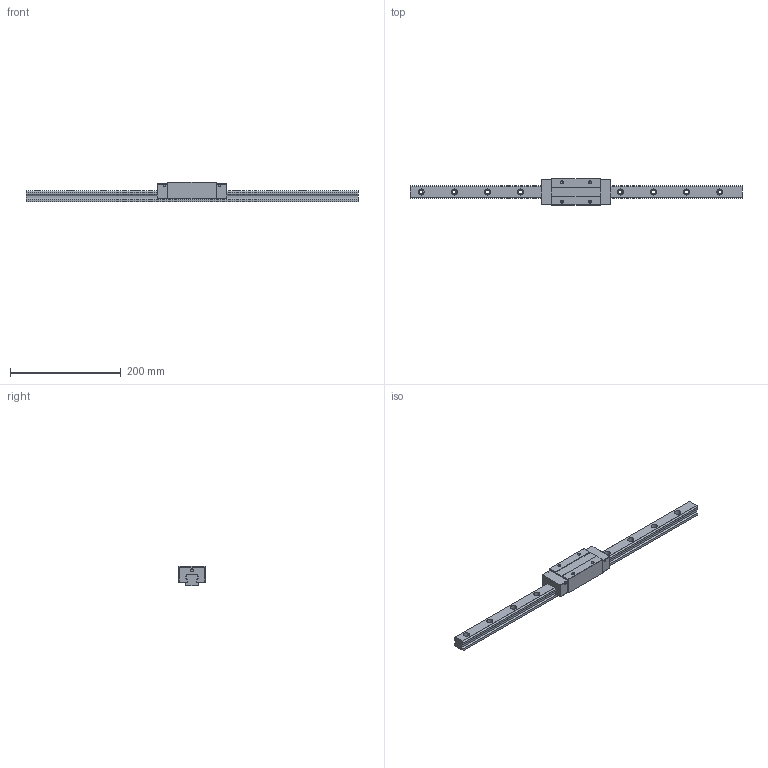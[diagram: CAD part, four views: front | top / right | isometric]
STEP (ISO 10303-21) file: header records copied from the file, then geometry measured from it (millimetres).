
FILE_DESCRIPTION (( 'STEP AP203' ), '1' );
FILE_NAME ('TRC25VE-DU.STEP', '2024-06-13T01:43:27', ( '' ), ( '' ), 'SwSTEP 2.0', 'SolidWorks 2022', '' );
FILE_SCHEMA (( 'CONFIG_CONTROL_DESIGN' ));
Length unit declared in the file: millimetre
Products named in the file (1): TRC25VE-DU
Bounding box: 600 x 48 x 36 mm (x, y, z)
Volume: 370902.5 mm3; surface area: 85528.4 mm2
Topology: 2 solids, 2 shells, 200 faces, 520 edges, 336 vertices
Faces by surface type: cylinder 96, plane 88, cone 16
Entity records: 6223 total; most frequent: DIRECTION 1114, CARTESIAN_POINT 1049, ORIENTED_EDGE 1024, EDGE_CURVE 512, AXIS2_PLACEMENT_3D 401, VERTEX_POINT 336, LINE 312, VECTOR 312
